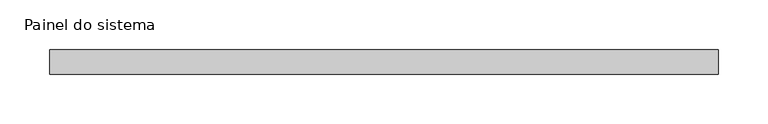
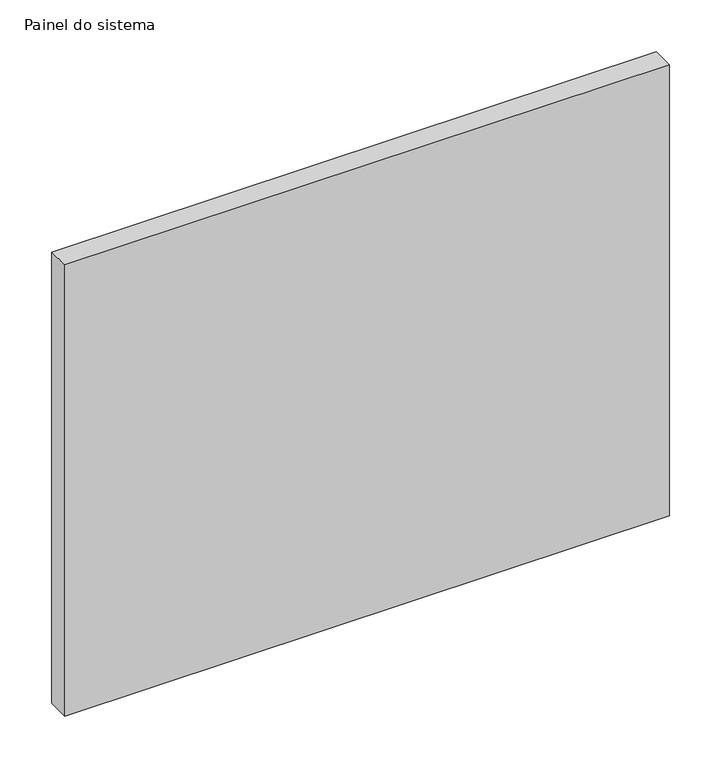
"""IFC4 building model written with IfcOpenShell, lengths in millimetres: plate geometry, Painel do sistema : Envidraçado."""

from ifc_helpers import new_model, si_unit, origin, origin_with_axes, place, context, project, spatial, polyline, outline, extrude, source, transform, mapped, element, save


def painel_do_sistema_339c30ad(model_context):
    return source(origin(), model_context, "Body", "SweptSolid", [
        extrude(outline(polyline([(337.5, 24.5), (-337.5, 24.5), (-337.5, 49.5), (337.5, 49.5), (337.5, 24.5)])), origin_with_axes(), (0.0, 0.0, 1.0), 532.5527297),
    ])


if __name__ == "__main__":
    model = new_model("IFC4")
    model_context = context("Model", 3, world=origin())
    ifc_project = project(units=[si_unit("LENGTHUNIT", "METRE", prefix="MILLI")], contexts=[model_context])
    site = spatial("IfcSite", under=ifc_project)
    building = spatial("IfcBuilding", under=site)
    placement = place(None, origin())
    painel_do_sistema_shape = painel_do_sistema_339c30ad(model_context)
    element("IfcPlate", 1, ObjectType="Painel do sistema : Envidraçado", at=placement, inside=building, context=model_context, shape_type="MappedRepresentation", body=[
        mapped(painel_do_sistema_shape, transform((0.0, 0.0, 0.0), x_axis=(1.0, 0.0, 0.0), y_axis=(0.0, 1.0, 0.0), z_axis=(0.0, 0.0, 1.0))),
    ])
    save(model, "model.ifc")
